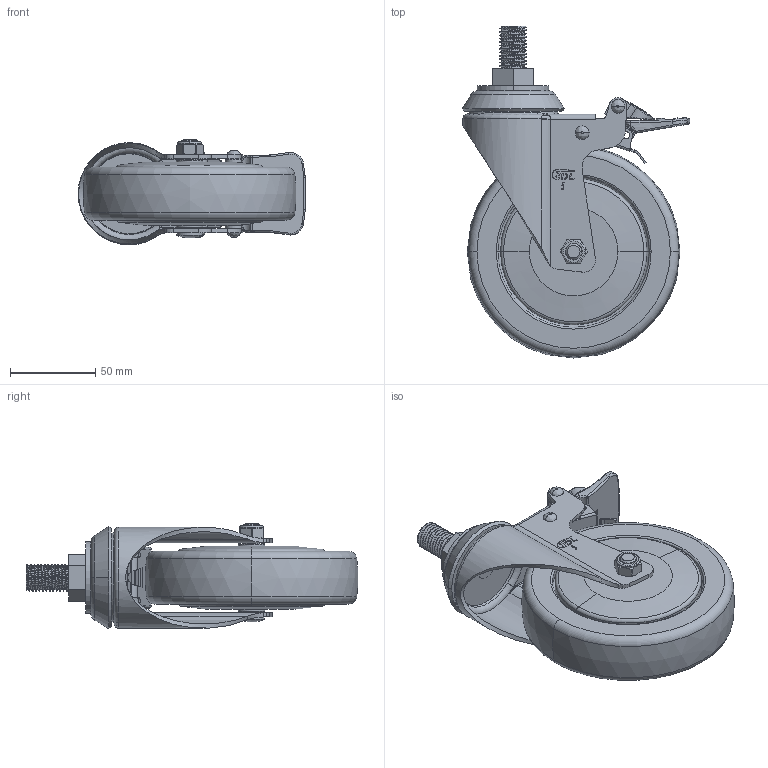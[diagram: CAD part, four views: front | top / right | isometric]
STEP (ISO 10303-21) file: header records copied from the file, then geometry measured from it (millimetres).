
FILE_DESCRIPTION((''),'2;1');
FILE_NAME('57245H-575-77_ASM','2021-01-05T',('lenovo'),(''),'PRO/ENGINEER BY PARAMETRIC TECHNOLOGY CORPORATION, 2010280','PRO/ENGINEER BY PARAMETRIC TECHNOLOGY CORPORATION, 2010280','');
FILE_SCHEMA(('CONFIG_CONTROL_DESIGN'));
Length unit declared in the file: millimetre
Products named in the file (10): 5010-053; 5725-321; 5720-211; 575-77; 5710-020; 5710-031; 570-64OFF; 5734-401; 571-64ON; 57245H-575-77_ASM
Assembly tree (9 placements, depth 2):
  57245H-575-77_ASM
    5010-053
    5725-321
    5720-211
    575-77
    5710-020
    5710-031
    570-64OFF
    5734-401
    571-64ON
Bounding box: 133.73 x 194.93 x 62 mm (x, y, z)
Volume: 491884.9 mm3; surface area: 102678.9 mm2
Topology: 9 solids, 9 shells, 816 faces, 2140 edges, 1358 vertices
Faces by surface type: plane 404, cylinder 215, bspline 94, cone 61, torus 38, sphere 4
Entity records: 32351 total; most frequent: CARTESIAN_POINT 12692, ORIENTED_EDGE 4268, DIRECTION 3782, EDGE_CURVE 2134, VERTEX_POINT 1356, AXIS2_PLACEMENT_3D 1296, VECTOR 1190, LINE 1190
